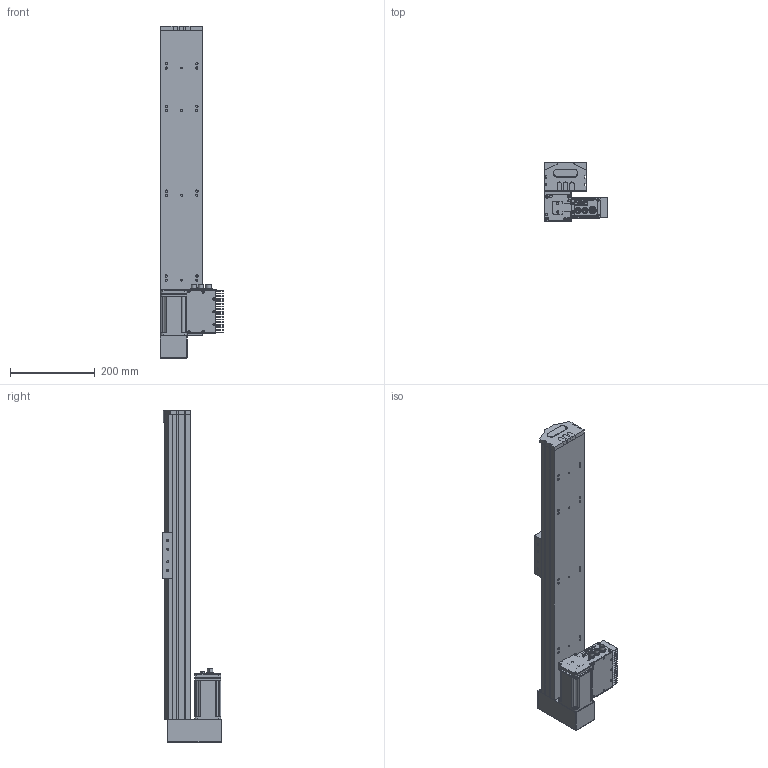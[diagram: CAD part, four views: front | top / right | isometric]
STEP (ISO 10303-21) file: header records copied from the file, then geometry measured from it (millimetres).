
FILE_DESCRIPTION (( 'STEP AP203' ), '1' );
FILE_NAME ('S 10 TSH BM S500.STEP', '2012-09-07T12:39:10', ( 'Conseil Régional Haute-Normandie' ), ( 'Conseil Régional Haute-Normandie' ), 'SwSTEP 2.0', 'SolidWorks 2010', '' );
FILE_SCHEMA (( 'CONFIG_CONTROL_DESIGN' ));
Length unit declared in the file: millimetre
Products named in the file (25): embout_modifié; T_X2_00F4_X0_le contre le moteur_5; BU41 Carte Alimentation P05_3; Colonnette_3; Connecteur rond D12 4cts_5; Connecteur rond D10 3cts_5; Vis TF 3 torkx_1_1; T_X2_00F4_X0_le lat_X2_00E9_X0_rale_5; Copie de renvoie LH2_Default; S 10 TSH BM S500; axe720_Default; piece_plastique remplieTSH_Default; remplir_Default; Pièce2_Default; palette tbn2; Assem1_7; BU45 Carte d''axe A11_5; Moteur 60BLDC90A_3; Couvercle_3; T_X2_00F4_X0_le fond_3; Sub D 9cts 90_X2_00B_X0__3; Radiateur profil_X2_00E9_X0_ 100x25_3; Colonnette ronde_3; T_X2_00F4_X0_le Arri_X2_00E8_X0_re_5; Vis TF 3 torkx
Assembly tree (55 placements, depth 3):
  S 10 TSH BM S500
    axe720_Default
    palette tbn2
    Vis TF 3 torkx  x7
    Assem1_7
      T_X2_00F4_X0_le contre le moteur_5
      T_X2_00F4_X0_le lat_X2_00E9_X0_rale_5  x2
      Couvercle_3
      Colonnette ronde_3
      Vis TF 3 torkx_1_1  x21
      T_X2_00F4_X0_le Arri_X2_00E8_X0_re_5
      BU41 Carte Alimentation P05_3
      Connecteur rond D12 4cts_5
      Moteur 60BLDC90A_3
      Sub D 9cts 90_X2_00B_X0__3
      Colonnette_3  x2
      BU45 Carte d''axe A11_5
      T_X2_00F4_X0_le fond_3
      Radiateur profil_X2_00E9_X0_ 100x25_3
      Connecteur rond D10 3cts_5  x2
    piece_plastique remplieTSH_Default
      remplir_Default  x3
      embout_modifié
      Pièce2_Default
    Copie de renvoie LH2_Default
Bounding box: 149.38 x 138.75 x 782 mm (x, y, z)
Volume: 4464962.4 mm3; surface area: 661509.9 mm2
Topology: 53 solids, 53 shells, 1980 faces, 5038 edges, 3278 vertices
Faces by surface type: plane 926, cylinder 883, cone 164, sphere 4, torus 3
Entity records: 38977 total; most frequent: CARTESIAN_POINT 6528, DIRECTION 6365, ORIENTED_EDGE 5768, EDGE_CURVE 2884, AXIS2_PLACEMENT_3D 2340, VERTEX_POINT 1890, VECTOR 1685, LINE 1685
